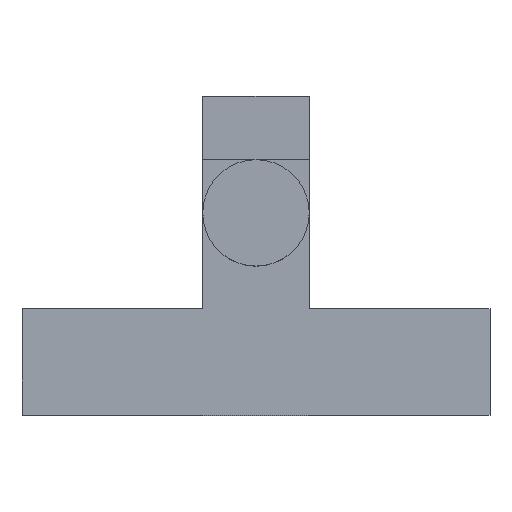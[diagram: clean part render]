
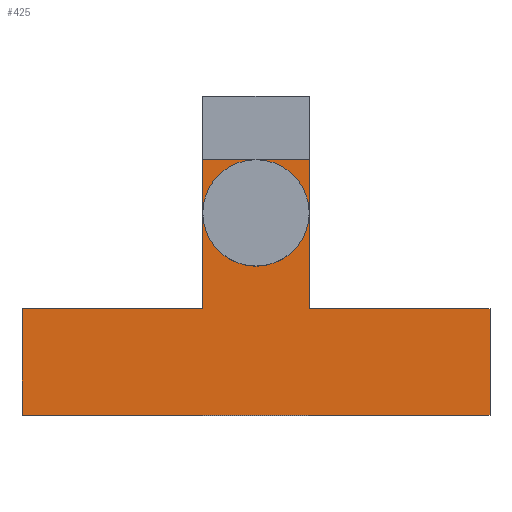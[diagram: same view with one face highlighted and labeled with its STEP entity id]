
A CAD part, top view. The second image highlights one B-rep face of the part: STEP entity #425.
In plain terms, the highlighted planar face has unit normal (0, 0, 1).
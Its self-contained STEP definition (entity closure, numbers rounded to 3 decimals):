
#54 = VERTEX_POINT('',#55);
#55 = CARTESIAN_POINT('',(2.,-10.,131.));
#62 = PLANE('',#63);
#63 = AXIS2_PLACEMENT_3D('',#64,#65,#66);
#64 = CARTESIAN_POINT('',(2.,-10.,114.));
#65 = DIRECTION('',(-1.,-0.,0.));
#66 = DIRECTION('',(0.,0.,-1.));
#74 = PLANE('',#75);
#75 = AXIS2_PLACEMENT_3D('',#76,#77,#78);
#76 = CARTESIAN_POINT('',(2.,-10.,114.));
#77 = DIRECTION('',(-0.,1.,-0.));
#78 = DIRECTION('',(0.,0.,-1.));
#115 = VERTEX_POINT('',#116);
#116 = CARTESIAN_POINT('',(2.,0.,131.));
#130 = PLANE('',#131);
#131 = AXIS2_PLACEMENT_3D('',#132,#133,#134);
#132 = CARTESIAN_POINT('',(2.,0.,114.));
#133 = DIRECTION('',(-0.,1.,-0.));
#134 = DIRECTION('',(0.,0.,-1.));
#142 = EDGE_CURVE('',#54,#115,#143,.T.);
#143 = SURFACE_CURVE('',#144,(#148,#155),.PCURVE_S1.);
#144 = LINE('',#145,#146);
#145 = CARTESIAN_POINT('',(2.,-10.,131.));
#146 = VECTOR('',#147,1.);
#147 = DIRECTION('',(-0.,1.,0.));
#148 = PCURVE('',#62,#149);
#149 = DEFINITIONAL_REPRESENTATION('',(#150),#154);
#150 = LINE('',#151,#152);
#151 = CARTESIAN_POINT('',(-17.,-0.));
#152 = VECTOR('',#153,1.);
#153 = DIRECTION('',(-0.,-1.));
#154 = ( GEOMETRIC_REPRESENTATION_CONTEXT(2)
PARAMETRIC_REPRESENTATION_CONTEXT() REPRESENTATION_CONTEXT('2D SPACE',''
  ) );
#155 = PCURVE('',#156,#161);
#156 = PLANE('',#157);
#157 = AXIS2_PLACEMENT_3D('',#158,#159,#160);
#158 = CARTESIAN_POINT('',(2.,-10.,131.));
#159 = DIRECTION('',(-0.,-0.,1.));
#160 = DIRECTION('',(1.,0.,0.));
#161 = DEFINITIONAL_REPRESENTATION('',(#162),#166);
#162 = LINE('',#163,#164);
#163 = CARTESIAN_POINT('',(0.,-0.));
#164 = VECTOR('',#165,1.);
#165 = DIRECTION('',(0.,1.));
#166 = ( GEOMETRIC_REPRESENTATION_CONTEXT(2)
PARAMETRIC_REPRESENTATION_CONTEXT() REPRESENTATION_CONTEXT('2D SPACE',''
  ) );
#195 = EDGE_CURVE('',#54,#196,#198,.T.);
#196 = VERTEX_POINT('',#197);
#197 = CARTESIAN_POINT('',(-42.,-10.,131.));
#198 = SURFACE_CURVE('',#199,(#203,#210),.PCURVE_S1.);
#199 = LINE('',#200,#201);
#200 = CARTESIAN_POINT('',(2.,-10.,131.));
#201 = VECTOR('',#202,1.);
#202 = DIRECTION('',(-1.,-0.,0.));
#203 = PCURVE('',#74,#204);
#204 = DEFINITIONAL_REPRESENTATION('',(#205),#209);
#205 = LINE('',#206,#207);
#206 = CARTESIAN_POINT('',(-17.,-0.));
#207 = VECTOR('',#208,1.);
#208 = DIRECTION('',(-0.,1.));
#209 = ( GEOMETRIC_REPRESENTATION_CONTEXT(2)
PARAMETRIC_REPRESENTATION_CONTEXT() REPRESENTATION_CONTEXT('2D SPACE',''
  ) );
#210 = PCURVE('',#156,#211);
#211 = DEFINITIONAL_REPRESENTATION('',(#212),#216);
#212 = LINE('',#213,#214);
#213 = CARTESIAN_POINT('',(0.,-0.));
#214 = VECTOR('',#215,1.);
#215 = DIRECTION('',(-1.,0.));
#216 = ( GEOMETRIC_REPRESENTATION_CONTEXT(2)
PARAMETRIC_REPRESENTATION_CONTEXT() REPRESENTATION_CONTEXT('2D SPACE',''
  ) );
#234 = PLANE('',#235);
#235 = AXIS2_PLACEMENT_3D('',#236,#237,#238);
#236 = CARTESIAN_POINT('',(-42.,-10.,114.));
#237 = DIRECTION('',(-1.,-0.,0.));
#238 = DIRECTION('',(0.,0.,-1.));
#425 = ADVANCED_FACE('',(#426,#581),#156,.T.);
#426 = FACE_BOUND('',#427,.F.);
#427 = EDGE_LOOP('',(#428,#451,#452,#453,#476,#499,#527,#555));
#428 = ORIENTED_EDGE('',*,*,#429,.F.);
#429 = EDGE_CURVE('',#115,#430,#432,.T.);
#430 = VERTEX_POINT('',#431);
#431 = CARTESIAN_POINT('',(-15.,0.,131.));
#432 = SURFACE_CURVE('',#433,(#437,#444),.PCURVE_S1.);
#433 = LINE('',#434,#435);
#434 = CARTESIAN_POINT('',(2.,0.,131.));
#435 = VECTOR('',#436,1.);
#436 = DIRECTION('',(-1.,-0.,0.));
#437 = PCURVE('',#156,#438);
#438 = DEFINITIONAL_REPRESENTATION('',(#439),#443);
#439 = LINE('',#440,#441);
#440 = CARTESIAN_POINT('',(0.,10.));
#441 = VECTOR('',#442,1.);
#442 = DIRECTION('',(-1.,0.));
#443 = ( GEOMETRIC_REPRESENTATION_CONTEXT(2)
PARAMETRIC_REPRESENTATION_CONTEXT() REPRESENTATION_CONTEXT('2D SPACE',''
  ) );
#444 = PCURVE('',#130,#445);
#445 = DEFINITIONAL_REPRESENTATION('',(#446),#450);
#446 = LINE('',#447,#448);
#447 = CARTESIAN_POINT('',(-17.,-0.));
#448 = VECTOR('',#449,1.);
#449 = DIRECTION('',(-0.,1.));
#450 = ( GEOMETRIC_REPRESENTATION_CONTEXT(2)
PARAMETRIC_REPRESENTATION_CONTEXT() REPRESENTATION_CONTEXT('2D SPACE',''
  ) );
#451 = ORIENTED_EDGE('',*,*,#142,.F.);
#452 = ORIENTED_EDGE('',*,*,#195,.T.);
#453 = ORIENTED_EDGE('',*,*,#454,.T.);
#454 = EDGE_CURVE('',#196,#455,#457,.T.);
#455 = VERTEX_POINT('',#456);
#456 = CARTESIAN_POINT('',(-42.,0.,131.));
#457 = SURFACE_CURVE('',#458,(#462,#469),.PCURVE_S1.);
#458 = LINE('',#459,#460);
#459 = CARTESIAN_POINT('',(-42.,-10.,131.));
#460 = VECTOR('',#461,1.);
#461 = DIRECTION('',(-0.,1.,0.));
#462 = PCURVE('',#156,#463);
#463 = DEFINITIONAL_REPRESENTATION('',(#464),#468);
#464 = LINE('',#465,#466);
#465 = CARTESIAN_POINT('',(-44.,0.));
#466 = VECTOR('',#467,1.);
#467 = DIRECTION('',(0.,1.));
#468 = ( GEOMETRIC_REPRESENTATION_CONTEXT(2)
PARAMETRIC_REPRESENTATION_CONTEXT() REPRESENTATION_CONTEXT('2D SPACE',''
  ) );
#469 = PCURVE('',#234,#470);
#470 = DEFINITIONAL_REPRESENTATION('',(#471),#475);
#471 = LINE('',#472,#473);
#472 = CARTESIAN_POINT('',(-17.,-0.));
#473 = VECTOR('',#474,1.);
#474 = DIRECTION('',(-0.,-1.));
#475 = ( GEOMETRIC_REPRESENTATION_CONTEXT(2)
PARAMETRIC_REPRESENTATION_CONTEXT() REPRESENTATION_CONTEXT('2D SPACE',''
  ) );
#476 = ORIENTED_EDGE('',*,*,#477,.F.);
#477 = EDGE_CURVE('',#478,#455,#480,.T.);
#478 = VERTEX_POINT('',#479);
#479 = CARTESIAN_POINT('',(-25.,0.,131.));
#480 = SURFACE_CURVE('',#481,(#485,#492),.PCURVE_S1.);
#481 = LINE('',#482,#483);
#482 = CARTESIAN_POINT('',(2.,0.,131.));
#483 = VECTOR('',#484,1.);
#484 = DIRECTION('',(-1.,-0.,0.));
#485 = PCURVE('',#156,#486);
#486 = DEFINITIONAL_REPRESENTATION('',(#487),#491);
#487 = LINE('',#488,#489);
#488 = CARTESIAN_POINT('',(0.,10.));
#489 = VECTOR('',#490,1.);
#490 = DIRECTION('',(-1.,0.));
#491 = ( GEOMETRIC_REPRESENTATION_CONTEXT(2)
PARAMETRIC_REPRESENTATION_CONTEXT() REPRESENTATION_CONTEXT('2D SPACE',''
  ) );
#492 = PCURVE('',#130,#493);
#493 = DEFINITIONAL_REPRESENTATION('',(#494),#498);
#494 = LINE('',#495,#496);
#495 = CARTESIAN_POINT('',(-17.,-0.));
#496 = VECTOR('',#497,1.);
#497 = DIRECTION('',(-0.,1.));
#498 = ( GEOMETRIC_REPRESENTATION_CONTEXT(2)
PARAMETRIC_REPRESENTATION_CONTEXT() REPRESENTATION_CONTEXT('2D SPACE',''
  ) );
#499 = ORIENTED_EDGE('',*,*,#500,.T.);
#500 = EDGE_CURVE('',#478,#501,#503,.T.);
#501 = VERTEX_POINT('',#502);
#502 = CARTESIAN_POINT('',(-25.,14.,131.));
#503 = SURFACE_CURVE('',#504,(#508,#515),.PCURVE_S1.);
#504 = LINE('',#505,#506);
#505 = CARTESIAN_POINT('',(-25.,-0.5,131.));
#506 = VECTOR('',#507,1.);
#507 = DIRECTION('',(-0.,1.,0.));
#508 = PCURVE('',#156,#509);
#509 = DEFINITIONAL_REPRESENTATION('',(#510),#514);
#510 = LINE('',#511,#512);
#511 = CARTESIAN_POINT('',(-27.,9.5));
#512 = VECTOR('',#513,1.);
#513 = DIRECTION('',(0.,1.));
#514 = ( GEOMETRIC_REPRESENTATION_CONTEXT(2)
PARAMETRIC_REPRESENTATION_CONTEXT() REPRESENTATION_CONTEXT('2D SPACE',''
  ) );
#515 = PCURVE('',#516,#521);
#516 = PLANE('',#517);
#517 = AXIS2_PLACEMENT_3D('',#518,#519,#520);
#518 = CARTESIAN_POINT('',(-25.,-0.5,123.));
#519 = DIRECTION('',(-1.,-0.,0.));
#520 = DIRECTION('',(0.,0.,-1.));
#521 = DEFINITIONAL_REPRESENTATION('',(#522),#526);
#522 = LINE('',#523,#524);
#523 = CARTESIAN_POINT('',(-8.,-0.));
#524 = VECTOR('',#525,1.);
#525 = DIRECTION('',(-0.,-1.));
#526 = ( GEOMETRIC_REPRESENTATION_CONTEXT(2)
PARAMETRIC_REPRESENTATION_CONTEXT() REPRESENTATION_CONTEXT('2D SPACE',''
  ) );
#527 = ORIENTED_EDGE('',*,*,#528,.F.);
#528 = EDGE_CURVE('',#529,#501,#531,.T.);
#529 = VERTEX_POINT('',#530);
#530 = CARTESIAN_POINT('',(-15.,14.,131.));
#531 = SURFACE_CURVE('',#532,(#536,#543),.PCURVE_S1.);
#532 = LINE('',#533,#534);
#533 = CARTESIAN_POINT('',(-15.,14.,131.));
#534 = VECTOR('',#535,1.);
#535 = DIRECTION('',(-1.,-0.,0.));
#536 = PCURVE('',#156,#537);
#537 = DEFINITIONAL_REPRESENTATION('',(#538),#542);
#538 = LINE('',#539,#540);
#539 = CARTESIAN_POINT('',(-17.,24.));
#540 = VECTOR('',#541,1.);
#541 = DIRECTION('',(-1.,0.));
#542 = ( GEOMETRIC_REPRESENTATION_CONTEXT(2)
PARAMETRIC_REPRESENTATION_CONTEXT() REPRESENTATION_CONTEXT('2D SPACE',''
  ) );
#543 = PCURVE('',#544,#549);
#544 = PLANE('',#545);
#545 = AXIS2_PLACEMENT_3D('',#546,#547,#548);
#546 = CARTESIAN_POINT('',(-15.,14.,123.));
#547 = DIRECTION('',(-0.,1.,0.));
#548 = DIRECTION('',(0.,0.,-1.));
#549 = DEFINITIONAL_REPRESENTATION('',(#550),#554);
#550 = LINE('',#551,#552);
#551 = CARTESIAN_POINT('',(-8.,-0.));
#552 = VECTOR('',#553,1.);
#553 = DIRECTION('',(-0.,1.));
#554 = ( GEOMETRIC_REPRESENTATION_CONTEXT(2)
PARAMETRIC_REPRESENTATION_CONTEXT() REPRESENTATION_CONTEXT('2D SPACE',''
  ) );
#555 = ORIENTED_EDGE('',*,*,#556,.F.);
#556 = EDGE_CURVE('',#430,#529,#557,.T.);
#557 = SURFACE_CURVE('',#558,(#562,#569),.PCURVE_S1.);
#558 = LINE('',#559,#560);
#559 = CARTESIAN_POINT('',(-15.,-0.5,131.));
#560 = VECTOR('',#561,1.);
#561 = DIRECTION('',(-0.,1.,0.));
#562 = PCURVE('',#156,#563);
#563 = DEFINITIONAL_REPRESENTATION('',(#564),#568);
#564 = LINE('',#565,#566);
#565 = CARTESIAN_POINT('',(-17.,9.5));
#566 = VECTOR('',#567,1.);
#567 = DIRECTION('',(0.,1.));
#568 = ( GEOMETRIC_REPRESENTATION_CONTEXT(2)
PARAMETRIC_REPRESENTATION_CONTEXT() REPRESENTATION_CONTEXT('2D SPACE',''
  ) );
#569 = PCURVE('',#570,#575);
#570 = PLANE('',#571);
#571 = AXIS2_PLACEMENT_3D('',#572,#573,#574);
#572 = CARTESIAN_POINT('',(-15.,-0.5,123.));
#573 = DIRECTION('',(-1.,-0.,0.));
#574 = DIRECTION('',(0.,0.,-1.));
#575 = DEFINITIONAL_REPRESENTATION('',(#576),#580);
#576 = LINE('',#577,#578);
#577 = CARTESIAN_POINT('',(-8.,-0.));
#578 = VECTOR('',#579,1.);
#579 = DIRECTION('',(-0.,-1.));
#580 = ( GEOMETRIC_REPRESENTATION_CONTEXT(2)
PARAMETRIC_REPRESENTATION_CONTEXT() REPRESENTATION_CONTEXT('2D SPACE',''
  ) );
#581 = FACE_BOUND('',#582,.F.);
#582 = EDGE_LOOP('',(#583));
#583 = ORIENTED_EDGE('',*,*,#584,.F.);
#584 = EDGE_CURVE('',#585,#585,#587,.T.);
#585 = VERTEX_POINT('',#586);
#586 = CARTESIAN_POINT('',(-21.65,9.,131.));
#587 = SURFACE_CURVE('',#588,(#593,#604),.PCURVE_S1.);
#588 = CIRCLE('',#589,1.65);
#589 = AXIS2_PLACEMENT_3D('',#590,#591,#592);
#590 = CARTESIAN_POINT('',(-20.,9.,131.));
#591 = DIRECTION('',(0.,0.,-1.));
#592 = DIRECTION('',(-1.,-0.,-0.));
#593 = PCURVE('',#156,#594);
#594 = DEFINITIONAL_REPRESENTATION('',(#595),#603);
#595 = ( BOUNDED_CURVE() B_SPLINE_CURVE(2,(#596,#597,#598,#599,#600,#601
,#602),.UNSPECIFIED.,.T.,.F.) B_SPLINE_CURVE_WITH_KNOTS((1,2,2,2,2,1),(
    -2.094,0.,2.094,4.189,6.283,
8.378),.UNSPECIFIED.) CURVE() GEOMETRIC_REPRESENTATION_ITEM()
RATIONAL_B_SPLINE_CURVE((1.,0.5,1.,0.5,1.,0.5,1.)) REPRESENTATION_ITEM(
  '') );
#596 = CARTESIAN_POINT('',(-23.65,19.));
#597 = CARTESIAN_POINT('',(-23.65,21.858));
#598 = CARTESIAN_POINT('',(-21.175,20.429));
#599 = CARTESIAN_POINT('',(-18.7,19.));
#600 = CARTESIAN_POINT('',(-21.175,17.571));
#601 = CARTESIAN_POINT('',(-23.65,16.142));
#602 = CARTESIAN_POINT('',(-23.65,19.));
#603 = ( GEOMETRIC_REPRESENTATION_CONTEXT(2)
PARAMETRIC_REPRESENTATION_CONTEXT() REPRESENTATION_CONTEXT('2D SPACE',''
  ) );
#604 = PCURVE('',#605,#610);
#605 = CYLINDRICAL_SURFACE('',#606,1.65);
#606 = AXIS2_PLACEMENT_3D('',#607,#608,#609);
#607 = CARTESIAN_POINT('',(-20.,9.,122.));
#608 = DIRECTION('',(-0.,-0.,1.));
#609 = DIRECTION('',(-1.,-0.,-0.));
#610 = DEFINITIONAL_REPRESENTATION('',(#611),#615);
#611 = LINE('',#612,#613);
#612 = CARTESIAN_POINT('',(-0.,9.));
#613 = VECTOR('',#614,1.);
#614 = DIRECTION('',(-1.,0.));
#615 = ( GEOMETRIC_REPRESENTATION_CONTEXT(2)
PARAMETRIC_REPRESENTATION_CONTEXT() REPRESENTATION_CONTEXT('2D SPACE',''
  ) );
